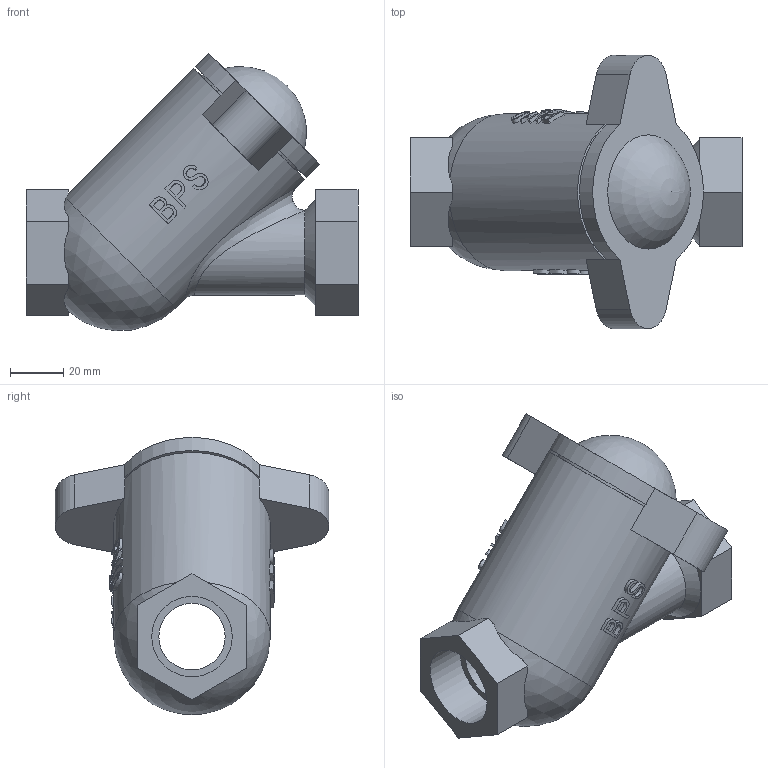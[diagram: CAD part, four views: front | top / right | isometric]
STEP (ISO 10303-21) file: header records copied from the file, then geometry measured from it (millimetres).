
FILE_DESCRIPTION( ( 'Unknown' ), '1' );
FILE_NAME( 'J:/Muud/ROOTSI BPS 3D vidinad/Kuuliga tagasiloogiklapid/STEP formaat/BPS 6540025 ball check valve DN25.stp', 'Unknown', ( 'Unknown' ), ( 'Unknown' ), 'PSStep 10.1', 'Unknown', ' ' );
FILE_SCHEMA( ( 'AUTOMOTIVE_DESIGN { 1 0 10303 214 1 1 1 1 }' ) );
Length unit declared in the file: millimetre
Products named in the file (1): 1
Bounding box: 125 x 102.93 x 104.33 mm (x, y, z)
Volume: 288246.4 mm3; surface area: 45923.6 mm2
Topology: 1 solids, 1 shells, 180 faces, 450 edges, 297 vertices
Faces by surface type: plane 101, bspline 41, cylinder 35, sphere 2, cone 1
Full cylindrical faces by diameter (mm): 25 x1, 30.291 x2, 51 x1, 59 x1
Entity records: 15193 total; most frequent: CARTESIAN_POINT 10216, ORIENTED_EDGE 868, DIRECTION 436, EDGE_CURVE 434, B_SPLINE_CURVE_WITH_KNOTS 323, VERTEX_POINT 292, EDGE_LOOP 222, FACE_OUTER_BOUND 189
